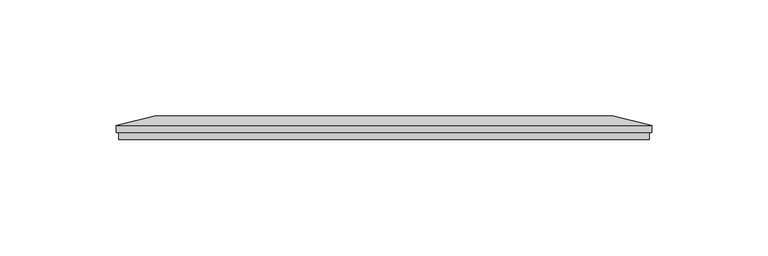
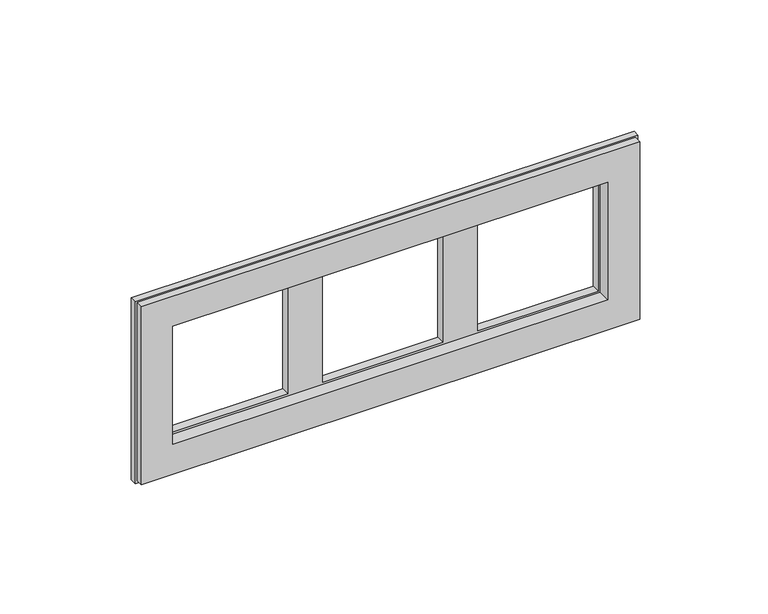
"""IFC4 building model written with IfcOpenShell, lengths in millimetres: proxy geometry, IEK_Brite_Рамка : x2_РУ-3-Бр бел.-бел.."""

from ifc_helpers import new_model, si_unit, frame, origin, place, context, project, spatial, polyline, outline, extrude, faceted_brep, source, transform, mapped, element, save


def electrical_fixtures_9b7fceb6(model_context):
    return source(origin(), model_context, "Body", "SolidModel", [
        extrude(outline(polyline([(43.0, -185.0), (-43.0, -185.0), (-43.0, 43.0), (43.0, 43.0), (43.0, -185.0)]), holes=[polyline([(28.5, -170.5), (28.5, 28.5), (-28.5, 28.5), (-28.5, -170.5), (28.5, -170.5)])]), frame((0.0, 0.0, 0.0), z_axis=(0.0, 1.0, 0.0), x_axis=(0.0, 0.0, 1.0)), (0.0, 0.0, 1.0), 6.0),
        faceted_brep([(-114.5, 10.0, -27.5), (-114.5, 10.0, 27.5), (-98.5, 10.0, 27.5), (-98.5, 10.0, -27.5), (-27.5, 10.0, 27.5), (-27.5, 10.0, -27.5), (-43.5, 10.0, -27.5), (-43.5, 10.0, 27.5), (43.0, 6.0, 43.0), (-185.0, 6.0, 43.0), (-185.0, 6.0, -43.0), (43.0, 6.0, -43.0), (-169.5, 6.0, -27.5), (-169.5, 6.0, 27.5), (-114.5, 6.0, 27.5), (-114.5, 6.0, -27.5), (-98.5, 6.0, -27.5), (-98.5, 6.0, 27.5), (-43.5, 6.0, 27.5), (-43.5, 6.0, -27.5), (-27.5, 6.0, -27.5), (-27.5, 6.0, 27.5), (27.5, 6.0, 27.5), (27.5, 6.0, -27.5), (44.0, 6.0, 44.0), (27.5, 10.0, 27.5), (-169.5, 10.0, 27.5), (-186.0, 6.0, 44.0), (44.0, 6.0, -44.0), (27.5, 10.0, -27.5), (-186.0, 6.0, -44.0), (-169.5, 10.0, -27.5), (-186.0, 3.0, 44.0), (-186.0, 3.0, -44.0), (44.0, 3.0, -44.0), (44.0, 3.0, 44.0), (-185.0, 3.0, 43.0), (43.0, 3.0, 43.0), (43.0, 3.0, -43.0), (-185.0, 3.0, -43.0)], [[[0, 1, 2, 3]], [[4, 5, 6, 7]], [[8, 9, 10, 11], [12, 13, 14, 15], [16, 17, 18, 19], [20, 21, 22, 23]], [[24, 25, 4, 7, 2, 1, 26, 27]], [[25, 24, 28, 29]], [[29, 28, 30, 31, 0, 3, 6, 5]], [[27, 26, 31, 30]], [[32, 33, 34, 35], [36, 37, 38, 39]], [[33, 32, 27, 30]], [[34, 33, 30, 28]], [[35, 34, 28, 24]], [[32, 35, 24, 27]], [[37, 36, 9, 8]], [[38, 37, 8, 11]], [[39, 38, 11, 10]], [[36, 39, 10, 9]], [[26, 13, 12, 31]], [[31, 12, 15, 0]], [[0, 15, 14, 1]], [[13, 26, 1, 14]], [[2, 17, 16, 3]], [[3, 16, 19, 6]], [[6, 19, 18, 7]], [[17, 2, 7, 18]], [[4, 21, 20, 5]], [[5, 20, 23, 29]], [[29, 23, 22, 25]], [[21, 4, 25, 22]]]),
    ])


if __name__ == "__main__":
    model = new_model("IFC4")
    model_context = context("Model", 3, world=origin())
    ifc_project = project(units=[si_unit("LENGTHUNIT", "METRE", prefix="MILLI")], contexts=[model_context])
    site = spatial("IfcSite", under=ifc_project)
    building = spatial("IfcBuilding", under=site)
    placement = place(None, origin())
    electrical_fixtures_shape = electrical_fixtures_9b7fceb6(model_context)
    element("IfcBuildingElementProxy", 1, Name="IEK_Brite_Рамка : x2_РУ-3-Бр бел.-бел.", ObjectType="IEK_Brite_Рамка : x2_РУ-3-Бр бел.-бел.", at=placement, inside=building, context=model_context, shape_type="MappedRepresentation", body=[
        mapped(electrical_fixtures_shape, transform((0.0, 0.0, 0.0), x_axis=(1.0, 0.0, 0.0), y_axis=(0.0, 1.0, 0.0), z_axis=(0.0, 0.0, 1.0))),
    ])
    save(model, "model.ifc")
